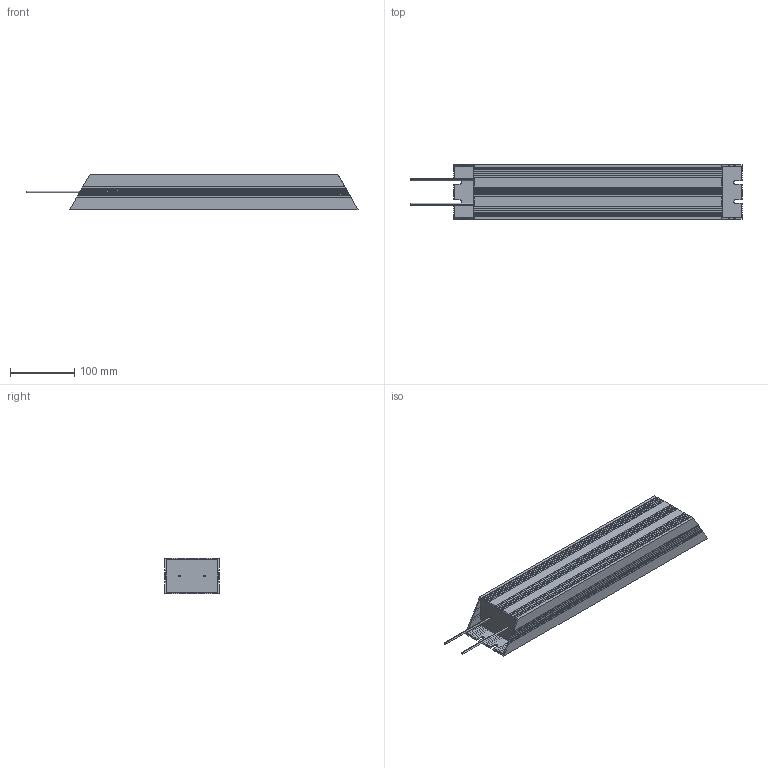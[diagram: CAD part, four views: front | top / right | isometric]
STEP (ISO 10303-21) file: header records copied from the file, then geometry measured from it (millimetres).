
FILE_DESCRIPTION (( 'STEP AP203' ), '1' );
FILE_NAME ('Ðåçèñòîð òîðìîçíîé _ IBRA-7.5-3000-IP54.STEP', '2025-07-04T14:08:16', ( '' ), ( '' ), 'SwSTEP 2.0', 'SolidWorks 2021', '' );
FILE_SCHEMA (( 'CONFIG_CONTROL_DESIGN' ));
Length unit declared in the file: millimetre
Products named in the file (1): Ðåçèñòîð òîðìîçíîé _ IBRA-7.5-3000-IP54
Bounding box: 518.15 x 85 x 55 mm (x, y, z)
Volume: 1814555.8 mm3; surface area: 183151 mm2
Topology: 1 solids, 1 shells, 254 faces, 750 edges, 500 vertices
Faces by surface type: plane 178, cylinder 76
Entity records: 8387 total; most frequent: CARTESIAN_POINT 1913, ORIENTED_EDGE 1500, DIRECTION 1140, EDGE_CURVE 750, VECTOR 598, LINE 598, VERTEX_POINT 500, AXIS2_PLACEMENT_3D 271
